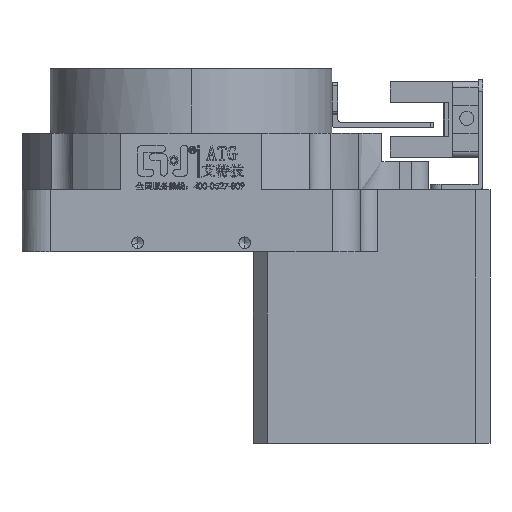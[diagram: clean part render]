
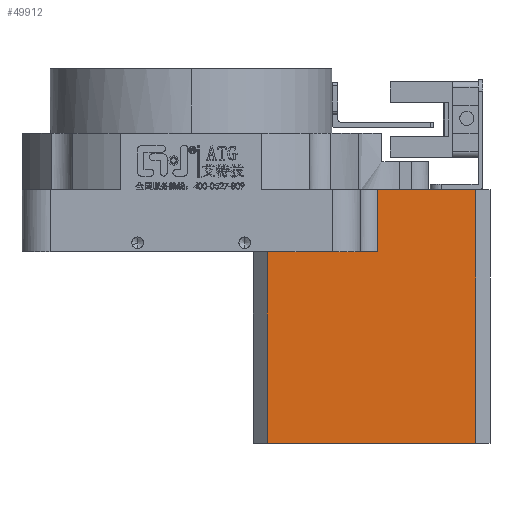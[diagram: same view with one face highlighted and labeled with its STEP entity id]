
A CAD part, left-side view. The second image highlights one B-rep face of the part: STEP entity #49912.
In plain terms, the highlighted planar face has unit normal (-1, 0, 0).
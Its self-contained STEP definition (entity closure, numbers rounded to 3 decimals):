
#1518 = CARTESIAN_POINT ( 'NONE',  ( -42.539, -60.55, -33.25 ) ) ;
#2049 = CARTESIAN_POINT ( 'NONE',  ( -42.539, -43.025, 0.75 ) ) ;
#3225 = CARTESIAN_POINT ( 'NONE',  ( -42.539, -23.55, 0.75 ) ) ;
#3627 = CARTESIAN_POINT ( 'NONE',  ( -42.539, -43.025, 0.75 ) ) ;
#7294 = CARTESIAN_POINT ( 'NONE',  ( -42.539, -43.025, 11.75 ) ) ;
#7329 = CARTESIAN_POINT ( 'NONE',  ( -42.539, -60.55, 11.75 ) ) ;
#9423 = VERTEX_POINT ( 'NONE', #7329 ) ;
#9906 = B_SPLINE_CURVE_WITH_KNOTS ( 'NONE', 1,
 ( #23727, #3225 ),
 .UNSPECIFIED., .F., .F.,
 ( 2, 2 ),
 ( -34., 0. ),
 .UNSPECIFIED. ) ;
#10775 = ORIENTED_EDGE ( 'NONE', *, *, #11090, .F. ) ;
#11090 = EDGE_CURVE ( 'NONE', #9423, #23614, #13136, .T. ) ;
#13136 = B_SPLINE_CURVE_WITH_KNOTS ( 'NONE', 1,
 ( #30088, #16900 ),
 .UNSPECIFIED., .F., .F.,
 ( 2, 2 ),
 ( -45., 0. ),
 .UNSPECIFIED. ) ;
#14143 = ORIENTED_EDGE ( 'NONE', *, *, #36524, .T. ) ;
#14894 = AXIS2_PLACEMENT_3D ( 'NONE', #50900, #38494, #25846 ) ;
#16185 = VERTEX_POINT ( 'NONE', #30855 ) ;
#16900 = CARTESIAN_POINT ( 'NONE',  ( -42.539, -60.55, -33.25 ) ) ;
#17195 = CARTESIAN_POINT ( 'NONE',  ( -42.539, -60.55, -33.25 ) ) ;
#18542 = EDGE_CURVE ( 'NONE', #16185, #37138, #9906, .T. ) ;
#22574 = VERTEX_POINT ( 'NONE', #48178 ) ;
#23080 = CARTESIAN_POINT ( 'NONE',  ( -42.539, -23.55, 0.75 ) ) ;
#23566 = B_SPLINE_CURVE_WITH_KNOTS ( 'NONE', 1,
 ( #7294, #48643 ),
 .UNSPECIFIED., .F., .F.,
 ( 2, 2 ),
 ( -11., 0. ),
 .UNSPECIFIED. ) ;
#23614 = VERTEX_POINT ( 'NONE', #1518 ) ;
#23727 = CARTESIAN_POINT ( 'NONE',  ( -42.539, -23.55, -33.25 ) ) ;
#25334 = ORIENTED_EDGE ( 'NONE', *, *, #40338, .F. ) ;
#25444 = CARTESIAN_POINT ( 'NONE',  ( -42.539, -23.55, -33.25 ) ) ;
#25821 = ORIENTED_EDGE ( 'NONE', *, *, #35139, .F. ) ;
#25846 = DIRECTION ( 'NONE',  ( 0., 0., 1. ) ) ;
#29900 = ORIENTED_EDGE ( 'NONE', *, *, #18542, .F. ) ;
#30088 = CARTESIAN_POINT ( 'NONE',  ( -42.539, -60.55, 11.75 ) ) ;
#30516 = PLANE ( 'NONE',  #14894 ) ;
#30855 = CARTESIAN_POINT ( 'NONE',  ( -42.539, -23.55, -33.25 ) ) ;
#34085 = FACE_OUTER_BOUND ( 'NONE', #44321, .T. ) ;
#34861 = B_SPLINE_CURVE_WITH_KNOTS ( 'NONE', 1,
 ( #17195, #25444 ),
 .UNSPECIFIED., .F., .F.,
 ( 2, 2 ),
 ( -37., 0. ),
 .UNSPECIFIED. ) ;
#35005 = VERTEX_POINT ( 'NONE', #3627 ) ;
#35139 = EDGE_CURVE ( 'NONE', #23614, #16185, #34861, .T. ) ;
#36524 = EDGE_CURVE ( 'NONE', #22574, #35005, #23566, .T. ) ;
#37138 = VERTEX_POINT ( 'NONE', #43489 ) ;
#38494 = DIRECTION ( 'NONE',  ( -1., 0., 0. ) ) ;
#40338 = EDGE_CURVE ( 'NONE', #22574, #9423, #53472, .T. ) ;
#40776 = CARTESIAN_POINT ( 'NONE',  ( -42.539, -60.55, 11.75 ) ) ;
#41321 = CARTESIAN_POINT ( 'NONE',  ( -42.539, -43.025, 11.75 ) ) ;
#43489 = CARTESIAN_POINT ( 'NONE',  ( -42.539, -23.55, 0.75 ) ) ;
#44321 = EDGE_LOOP ( 'NONE', ( #14143, #44492, #29900, #25821, #10775, #25334 ) ) ;
#44492 = ORIENTED_EDGE ( 'NONE', *, *, #48916, .F. ) ;
#48178 = CARTESIAN_POINT ( 'NONE',  ( -42.539, -43.025, 11.75 ) ) ;
#48643 = CARTESIAN_POINT ( 'NONE',  ( -42.539, -43.025, 0.75 ) ) ;
#48916 = EDGE_CURVE ( 'NONE', #37138, #35005, #53972, .T. ) ;
#49912 = ADVANCED_FACE ( 'NONE', ( #34085 ), #30516, .T. ) ;
#50900 = CARTESIAN_POINT ( 'NONE',  ( -42.539, -64.25, -37.75 ) ) ;
#53472 = B_SPLINE_CURVE_WITH_KNOTS ( 'NONE', 1,
 ( #41321, #40776 ),
 .UNSPECIFIED., .F., .F.,
 ( 2, 2 ),
 ( -17.525, 0. ),
 .UNSPECIFIED. ) ;
#53972 = B_SPLINE_CURVE_WITH_KNOTS ( 'NONE', 1,
 ( #23080, #2049 ),
 .UNSPECIFIED., .F., .F.,
 ( 2, 2 ),
 ( -19.475, 0. ),
 .UNSPECIFIED. ) ;
